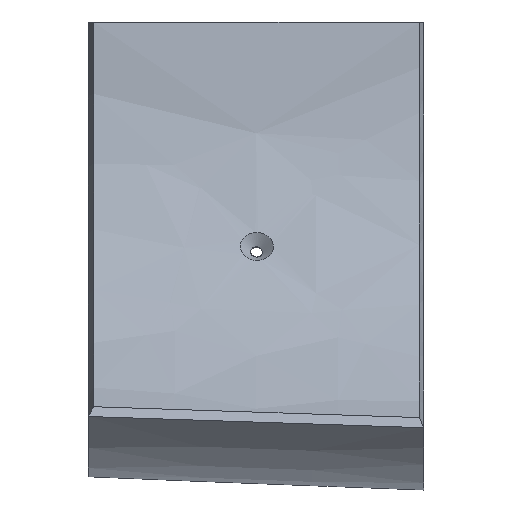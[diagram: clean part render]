
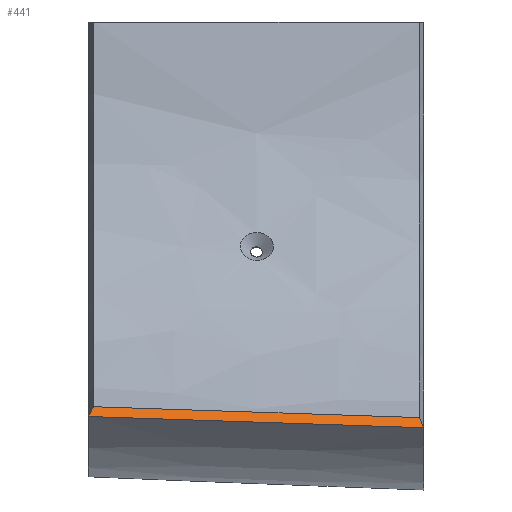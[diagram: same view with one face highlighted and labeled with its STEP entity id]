
A CAD part, left-side view. The second image highlights one B-rep face of the part: STEP entity #441.
In plain terms, the highlighted free-form (B-spline) face has degree [1, 3] with [2, 4] control points.
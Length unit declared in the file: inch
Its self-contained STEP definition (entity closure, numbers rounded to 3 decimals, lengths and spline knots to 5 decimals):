
#35 = VERTEX_POINT ( 'NONE', #2360 ) ;
#98 = CARTESIAN_POINT ( 'NONE',  ( 105.54817, 43.62707, -25.1563 ) ) ;
#246 = EDGE_CURVE ( 'NONE', #289, #1666, #2403, .T. ) ;
#288 = CARTESIAN_POINT ( 'NONE',  ( 104.89956, 29.38307, -26.2829 ) ) ;
#289 = VERTEX_POINT ( 'NONE', #98 ) ;
#299 = CARTESIAN_POINT ( 'NONE',  ( 105.18084, 43.96641, -25.79577 ) ) ;
#312 = CARTESIAN_POINT ( 'NONE',  ( 105.18084, 43.96641, -25.79577 ) ) ;
#313 = ORIENTED_EDGE ( 'NONE', *, *, #326, .F. ) ;
#323 = EDGE_CURVE ( 'NONE', #35, #1622, #735, .T. ) ;
#324 = CARTESIAN_POINT ( 'NONE',  ( 105.41353, 36.64583, -25.3895 ) ) ;
#326 = EDGE_CURVE ( 'NONE', #35, #1666, #375, .T. ) ;
#355 = CARTESIAN_POINT ( 'NONE',  ( 105.27491, 29.45764, -25.62961 ) ) ;
#375 = B_SPLINE_CURVE_WITH_KNOTS ( 'NONE', 3,
 ( #1465, #288, #677, #299 ),
 .UNSPECIFIED., .F., .F.,
 ( 4, 4 ),
 ( 0., 1. ),
 .UNSPECIFIED. ) ;
#441 = ADVANCED_FACE ( 'NONE', ( #2213 ), #1903, .T. ) ;
#491 = CARTESIAN_POINT ( 'NONE',  ( 105.55416, 43.9375, -25.14593 ) ) ;
#594 = EDGE_CURVE ( 'NONE', #1622, #289, #1321, .T. ) ;
#666 = CARTESIAN_POINT ( 'NONE',  ( 105.54817, 43.62707, -25.1563 ) ) ;
#677 = CARTESIAN_POINT ( 'NONE',  ( 105.0402, 36.67474, -26.03933 ) ) ;
#706 = CARTESIAN_POINT ( 'NONE',  ( 104.88537, 22.18525, -26.3064 ) ) ;
#720 = ORIENTED_EDGE ( 'NONE', *, *, #246, .T. ) ;
#735 = B_SPLINE_CURVE_WITH_KNOTS ( 'NONE', 3,
 ( #1055, #706, #1067, #2359 ),
 .UNSPECIFIED., .F., .F.,
 ( 4, 4 ),
 ( 0., 1. ),
 .UNSPECIFIED. ) ;
#891 = CARTESIAN_POINT ( 'NONE',  ( 105.18084, 43.96641, -25.79577 ) ) ;
#986 = CARTESIAN_POINT ( 'NONE',  ( 105.54817, 43.62707, -25.1563 ) ) ;
#1042 = CARTESIAN_POINT ( 'NONE',  ( 105.0402, 36.67474, -26.03933 ) ) ;
#1050 = CARTESIAN_POINT ( 'NONE',  ( 105.13827, 22.37293, -25.86627 ) ) ;
#1055 = CARTESIAN_POINT ( 'NONE',  ( 104.75892, 22.09141, -26.52646 ) ) ;
#1067 = CARTESIAN_POINT ( 'NONE',  ( 105.01182, 22.27909, -26.08633 ) ) ;
#1172 = ORIENTED_EDGE ( 'NONE', *, *, #594, .T. ) ;
#1268 = CARTESIAN_POINT ( 'NONE',  ( 104.89956, 29.38307, -26.2829 ) ) ;
#1282 = CARTESIAN_POINT ( 'NONE',  ( 105.27291, 29.35417, -25.63307 ) ) ;
#1321 = B_SPLINE_CURVE_WITH_KNOTS ( 'NONE', 3,
 ( #1675, #355, #1663, #986 ),
 .UNSPECIFIED., .F., .F.,
 ( 4, 4 ),
 ( 0.01419, 0.98581 ),
 .UNSPECIFIED. ) ;
#1451 = CARTESIAN_POINT ( 'NONE',  ( 104.75892, 22.09141, -26.52646 ) ) ;
#1465 = CARTESIAN_POINT ( 'NONE',  ( 104.75892, 22.09141, -26.52646 ) ) ;
#1622 = VERTEX_POINT ( 'NONE', #1050 ) ;
#1652 = EDGE_LOOP ( 'NONE', ( #1172, #720, #313, #1809 ) ) ;
#1663 = CARTESIAN_POINT ( 'NONE',  ( 105.41154, 36.54236, -25.39296 ) ) ;
#1666 = VERTEX_POINT ( 'NONE', #891 ) ;
#1675 = CARTESIAN_POINT ( 'NONE',  ( 105.13827, 22.37293, -25.86627 ) ) ;
#1794 = CARTESIAN_POINT ( 'NONE',  ( 105.13228, 22.0625, -25.87664 ) ) ;
#1809 = ORIENTED_EDGE ( 'NONE', *, *, #323, .T. ) ;
#1903 = B_SPLINE_SURFACE_WITH_KNOTS ( 'NONE', 1, 3, ( 
 ( #1451, #1268, #1042, #2011 ),
 ( #1794, #1282, #324, #491 ) ),
 .UNSPECIFIED., .F., .F., .F.,
 ( 2, 2 ),
 ( 4, 4 ),
 ( 0., 1. ),
 ( -0.27802, 0.27802 ),
 .UNSPECIFIED. ) ;
#1971 = CARTESIAN_POINT ( 'NONE',  ( 105.42573, 43.74018, -25.36946 ) ) ;
#2011 = CARTESIAN_POINT ( 'NONE',  ( 105.18084, 43.96641, -25.79577 ) ) ;
#2027 = CARTESIAN_POINT ( 'NONE',  ( 105.30328, 43.85329, -25.58261 ) ) ;
#2213 = FACE_OUTER_BOUND ( 'NONE', #1652, .T. ) ;
#2359 = CARTESIAN_POINT ( 'NONE',  ( 105.13827, 22.37293, -25.86627 ) ) ;
#2360 = CARTESIAN_POINT ( 'NONE',  ( 104.75892, 22.09141, -26.52646 ) ) ;
#2403 = B_SPLINE_CURVE_WITH_KNOTS ( 'NONE', 3,
 ( #666, #1971, #2027, #312 ),
 .UNSPECIFIED., .F., .F.,
 ( 4, 4 ),
 ( 0., 1. ),
 .UNSPECIFIED. ) ;
